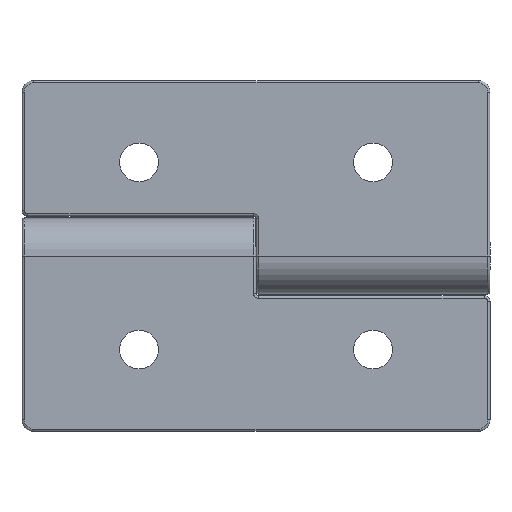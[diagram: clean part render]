
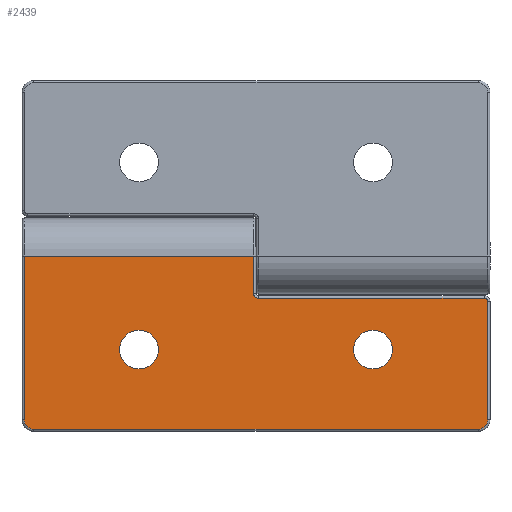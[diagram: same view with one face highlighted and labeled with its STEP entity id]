
A CAD part, front view. The second image highlights one B-rep face of the part: STEP entity #2439.
In plain terms, the highlighted planar face has unit normal (0, -1, 0).
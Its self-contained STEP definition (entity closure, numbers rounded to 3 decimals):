
#75 = ORIENTED_EDGE ( 'NONE', *, *, #221, .T. ) ;
#191 = VERTEX_POINT ( 'NONE', #972 ) ;
#221 = EDGE_CURVE ( 'NONE', #2100, #267, #1051, .T. ) ;
#234 = EDGE_CURVE ( 'NONE', #269, #191, #1042, .T. ) ;
#247 = VERTEX_POINT ( 'NONE', #1069 ) ;
#250 = EDGE_CURVE ( 'NONE', #267, #269, #1074, .T. ) ;
#260 = ORIENTED_EDGE ( 'NONE', *, *, #250, .T. ) ;
#267 = VERTEX_POINT ( 'NONE', #1098 ) ;
#269 = VERTEX_POINT ( 'NONE', #1102 ) ;
#272 = ORIENTED_EDGE ( 'NONE', *, *, #234, .T. ) ;
#389 = EDGE_CURVE ( 'NONE', #191, #391, #1298, .T. ) ;
#391 = VERTEX_POINT ( 'NONE', #1276 ) ;
#392 = ORIENTED_EDGE ( 'NONE', *, *, #394, .T. ) ;
#394 = EDGE_CURVE ( 'NONE', #391, #2444, #1254, .T. ) ;
#398 = ORIENTED_EDGE ( 'NONE', *, *, #389, .T. ) ;
#972 = CARTESIAN_POINT ( 'NONE',  ( 39.8, -3.25, -3.9 ) ) ;
#1027 = DIRECTION ( 'NONE',  ( 0., 0., 1. ) ) ;
#1028 = VECTOR ( 'NONE', #1027, 1000. ) ;
#1029 = CARTESIAN_POINT ( 'NONE',  ( 39.8, -3.25, -3.9 ) ) ;
#1042 = LINE ( 'NONE', #1029, #1028 ) ;
#1046 = DIRECTION ( 'NONE',  ( 1., 0., 0. ) ) ;
#1047 = VECTOR ( 'NONE', #1046, 1000. ) ;
#1050 = CARTESIAN_POINT ( 'NONE',  ( 40., -3.25, -14.8 ) ) ;
#1051 = LINE ( 'NONE', #1050, #1047 ) ;
#1053 = AXIS2_PLACEMENT_3D ( 'NONE', #1063, #1108, #1107 ) ;
#1063 = CARTESIAN_POINT ( 'NONE',  ( 39., -3.25, -14. ) ) ;
#1069 = CARTESIAN_POINT ( 'NONE',  ( 19.8, -3.25, 0. ) ) ;
#1074 = CIRCLE ( 'NONE', #1053, 0.8 ) ;
#1098 = CARTESIAN_POINT ( 'NONE',  ( 39., -3.25, -14.8 ) ) ;
#1102 = CARTESIAN_POINT ( 'NONE',  ( 39.8, -3.25, -14. ) ) ;
#1107 = DIRECTION ( 'NONE',  ( 0., 0., 1. ) ) ;
#1108 = DIRECTION ( 'NONE',  ( 0., -1., 0. ) ) ;
#1254 = LINE ( 'NONE', #1275, #1283 ) ;
#1269 = DIRECTION ( 'NONE',  ( -1., 0., 0. ) ) ;
#1271 = DIRECTION ( 'NONE',  ( 0., 0., 1. ) ) ;
#1272 = DIRECTION ( 'NONE',  ( 0., -1., 0. ) ) ;
#1273 = AXIS2_PLACEMENT_3D ( 'NONE', #1285, #1272, #1271 ) ;
#1275 = CARTESIAN_POINT ( 'NONE',  ( 40., -3.25, -3.6 ) ) ;
#1276 = CARTESIAN_POINT ( 'NONE',  ( 39.5, -3.25, -3.6 ) ) ;
#1283 = VECTOR ( 'NONE', #1269, 1000. ) ;
#1285 = CARTESIAN_POINT ( 'NONE',  ( 39.5, -3.25, -3.9 ) ) ;
#1298 = CIRCLE ( 'NONE', #1273, 0.3 ) ;
#1729 = CARTESIAN_POINT ( 'NONE',  ( 10., -3.25, -9.65 ) ) ;
#1736 = DIRECTION ( 'NONE',  ( 0., 0., 1. ) ) ;
#1737 = DIRECTION ( 'NONE',  ( 0., 1., 0. ) ) ;
#1738 = CARTESIAN_POINT ( 'NONE',  ( 10., -3.25, -8. ) ) ;
#1739 = AXIS2_PLACEMENT_3D ( 'NONE', #1738, #1737, #1736 ) ;
#1740 = CIRCLE ( 'NONE', #1739, 1.65 ) ;
#1747 = CARTESIAN_POINT ( 'NONE',  ( 10., -3.25, -6.35 ) ) ;
#1795 = LINE ( 'NONE', #1832, #1831 ) ;
#1805 = CARTESIAN_POINT ( 'NONE',  ( 1., -3.25, -14.8 ) ) ;
#1828 = CARTESIAN_POINT ( 'NONE',  ( 30., -3.25, -6.35 ) ) ;
#1830 = DIRECTION ( 'NONE',  ( -1., 0., 0. ) ) ;
#1831 = VECTOR ( 'NONE', #1830, 1000. ) ;
#1832 = CARTESIAN_POINT ( 'NONE',  ( 40., -3.25, 0. ) ) ;
#1841 = PLANE ( 'NONE',  #1896 ) ;
#1849 = CARTESIAN_POINT ( 'NONE',  ( 30., -3.25, -9.65 ) ) ;
#1850 = DIRECTION ( 'NONE',  ( 0., 0., 1. ) ) ;
#1851 = DIRECTION ( 'NONE',  ( 0., 1., 0. ) ) ;
#1852 = CARTESIAN_POINT ( 'NONE',  ( 30., -3.25, -8. ) ) ;
#1857 = CIRCLE ( 'NONE', #1863, 1.65 ) ;
#1862 = CARTESIAN_POINT ( 'NONE',  ( 0.2, -3.25, 0. ) ) ;
#1863 = AXIS2_PLACEMENT_3D ( 'NONE', #1852, #1851, #1850 ) ;
#1868 = CIRCLE ( 'NONE', #1907, 1.65 ) ;
#1869 = CARTESIAN_POINT ( 'NONE',  ( 20.2, -3.25, -3.6 ) ) ;
#1871 = DIRECTION ( 'NONE',  ( 0., 0., 1. ) ) ;
#1872 = DIRECTION ( 'NONE',  ( 0., 1., 0. ) ) ;
#1874 = CARTESIAN_POINT ( 'NONE',  ( 0.2, -3.25, 0. ) ) ;
#1875 = LINE ( 'NONE', #1874, #1925 ) ;
#1881 = CARTESIAN_POINT ( 'NONE',  ( 40., -3.25, 0. ) ) ;
#1882 = FACE_OUTER_BOUND ( 'NONE', #2436, .T. ) ;
#1883 = DIRECTION ( 'NONE',  ( 0., 0., 1. ) ) ;
#1884 = DIRECTION ( 'NONE',  ( 0., -1., 0. ) ) ;
#1885 = CARTESIAN_POINT ( 'NONE',  ( 20.2, -3.25, -3.2 ) ) ;
#1886 = FACE_BOUND ( 'NONE', #2441, .T. ) ;
#1887 = FACE_BOUND ( 'NONE', #2452, .T. ) ;
#1889 = AXIS2_PLACEMENT_3D ( 'NONE', #1885, #1884, #1883 ) ;
#1890 = CIRCLE ( 'NONE', #1889, 0.4 ) ;
#1891 = DIRECTION ( 'NONE',  ( 0., 0., 1. ) ) ;
#1892 = DIRECTION ( 'NONE',  ( 0., 1., 0. ) ) ;
#1893 = CARTESIAN_POINT ( 'NONE',  ( 30., -3.25, -8. ) ) ;
#1894 = AXIS2_PLACEMENT_3D ( 'NONE', #1893, #1892, #1891 ) ;
#1895 = CIRCLE ( 'NONE', #1894, 1.65 ) ;
#1896 = AXIS2_PLACEMENT_3D ( 'NONE', #1881, #1872, #1871 ) ;
#1899 = CARTESIAN_POINT ( 'NONE',  ( 1., -3.25, -14. ) ) ;
#1900 = CIRCLE ( 'NONE', #1958, 0.8 ) ;
#1904 = DIRECTION ( 'NONE',  ( 0., 0., 1. ) ) ;
#1905 = DIRECTION ( 'NONE',  ( 0., 1., 0. ) ) ;
#1906 = CARTESIAN_POINT ( 'NONE',  ( 10., -3.25, -8. ) ) ;
#1907 = AXIS2_PLACEMENT_3D ( 'NONE', #1906, #1905, #1904 ) ;
#1908 = CARTESIAN_POINT ( 'NONE',  ( 19.8, -3.25, -3.2 ) ) ;
#1919 = DIRECTION ( 'NONE',  ( 0., 0., 1. ) ) ;
#1920 = VECTOR ( 'NONE', #1919, 1000. ) ;
#1921 = CARTESIAN_POINT ( 'NONE',  ( 19.8, -3.25, 0. ) ) ;
#1922 = LINE ( 'NONE', #1921, #1920 ) ;
#1923 = CARTESIAN_POINT ( 'NONE',  ( 0.2, -3.25, -14. ) ) ;
#1924 = DIRECTION ( 'NONE',  ( 0., 0., -1. ) ) ;
#1925 = VECTOR ( 'NONE', #1924, 1000. ) ;
#1956 = DIRECTION ( 'NONE',  ( 0., 0., 1. ) ) ;
#1957 = DIRECTION ( 'NONE',  ( 0., -1., 0. ) ) ;
#1958 = AXIS2_PLACEMENT_3D ( 'NONE', #1899, #1957, #1956 ) ;
#2077 = EDGE_CURVE ( 'NONE', #2082, #2078, #1740, .T. ) ;
#2078 = VERTEX_POINT ( 'NONE', #1747 ) ;
#2082 = VERTEX_POINT ( 'NONE', #1729 ) ;
#2100 = VERTEX_POINT ( 'NONE', #1805 ) ;
#2397 = EDGE_CURVE ( 'NONE', #247, #2413, #1795, .T. ) ;
#2403 = VERTEX_POINT ( 'NONE', #1828 ) ;
#2413 = VERTEX_POINT ( 'NONE', #1862 ) ;
#2414 = EDGE_CURVE ( 'NONE', #2428, #2403, #1857, .T. ) ;
#2422 = ORIENTED_EDGE ( 'NONE', *, *, #2435, .F. ) ;
#2428 = VERTEX_POINT ( 'NONE', #1849 ) ;
#2430 = ORIENTED_EDGE ( 'NONE', *, *, #2397, .T. ) ;
#2431 = EDGE_CURVE ( 'NONE', #2403, #2428, #1895, .T. ) ;
#2432 = ORIENTED_EDGE ( 'NONE', *, *, #2414, .T. ) ;
#2435 = EDGE_CURVE ( 'NONE', #2458, #2444, #1890, .T. ) ;
#2436 = EDGE_LOOP ( 'NONE', ( #2422, #2462, #2430, #2463, #2460, #75, #260, #272, #398, #392 ) ) ;
#2439 = ADVANCED_FACE ( 'NONE', ( #1887, #1886, #1882 ), #1841, .F. ) ;
#2441 = EDGE_LOOP ( 'NONE', ( #2443, #2432 ) ) ;
#2443 = ORIENTED_EDGE ( 'NONE', *, *, #2431, .T. ) ;
#2444 = VERTEX_POINT ( 'NONE', #1869 ) ;
#2445 = ORIENTED_EDGE ( 'NONE', *, *, #2077, .T. ) ;
#2447 = EDGE_CURVE ( 'NONE', #2413, #2451, #1875, .T. ) ;
#2449 = EDGE_CURVE ( 'NONE', #2458, #247, #1922, .T. ) ;
#2451 = VERTEX_POINT ( 'NONE', #1923 ) ;
#2452 = EDGE_LOOP ( 'NONE', ( #2454, #2445 ) ) ;
#2454 = ORIENTED_EDGE ( 'NONE', *, *, #2455, .T. ) ;
#2455 = EDGE_CURVE ( 'NONE', #2078, #2082, #1868, .T. ) ;
#2458 = VERTEX_POINT ( 'NONE', #1908 ) ;
#2460 = ORIENTED_EDGE ( 'NONE', *, *, #2464, .T. ) ;
#2462 = ORIENTED_EDGE ( 'NONE', *, *, #2449, .T. ) ;
#2463 = ORIENTED_EDGE ( 'NONE', *, *, #2447, .T. ) ;
#2464 = EDGE_CURVE ( 'NONE', #2451, #2100, #1900, .T. ) ;
